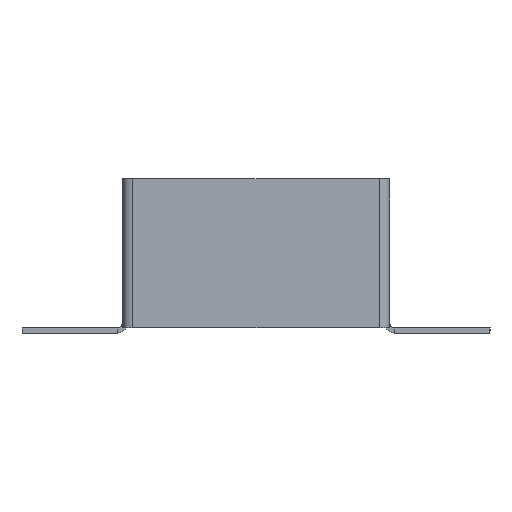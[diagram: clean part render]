
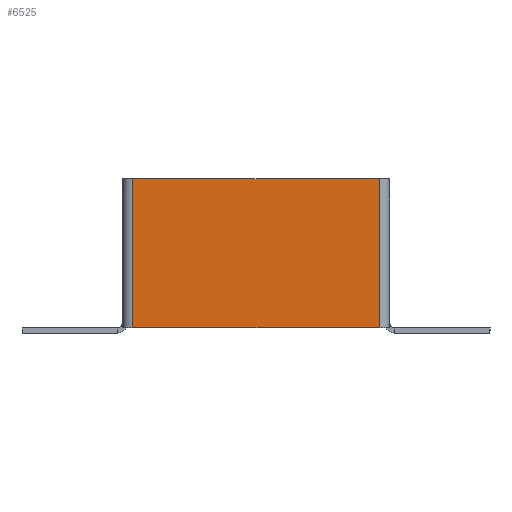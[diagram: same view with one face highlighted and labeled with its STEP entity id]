
A CAD part, front view. The second image highlights one B-rep face of the part: STEP entity #6525.
In plain terms, the highlighted planar face has unit normal (0, -1, 0).
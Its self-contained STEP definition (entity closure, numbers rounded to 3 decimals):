
#49 = CARTESIAN_POINT ( 'NONE',  ( -50., -2., 0. ) ) ;
#439 = CARTESIAN_POINT ( 'NONE',  ( 48., -2., -58. ) ) ;
#782 = EDGE_CURVE ( 'NONE', #5308, #4845, #5976, .T. ) ;
#1187 = DIRECTION ( 'NONE',  ( 0., 1., 0. ) ) ;
#1202 = EDGE_CURVE ( 'NONE', #5308, #1970, #5719, .T. ) ;
#1685 = DIRECTION ( 'NONE',  ( 0., 0., -1. ) ) ;
#1970 = VERTEX_POINT ( 'NONE', #7170 ) ;
#2417 = DIRECTION ( 'NONE',  ( 1., 0., 0. ) ) ;
#2468 = EDGE_LOOP ( 'NONE', ( #7684, #8819, #10192, #2958 ) ) ;
#2634 = AXIS2_PLACEMENT_3D ( 'NONE', #6640, #1187, #5184 ) ;
#2700 = DIRECTION ( 'NONE',  ( -1., 0., 0. ) ) ;
#2884 = LINE ( 'NONE', #7531, #4374 ) ;
#2910 = FACE_OUTER_BOUND ( 'NONE', #2468, .T. ) ;
#2958 = ORIENTED_EDGE ( 'NONE', *, *, #1202, .F. ) ;
#3900 = DIRECTION ( 'NONE',  ( 0., 0., 1. ) ) ;
#4132 = CARTESIAN_POINT ( 'NONE',  ( -48., -2., 0. ) ) ;
#4298 = EDGE_CURVE ( 'NONE', #9612, #4845, #2884, .T. ) ;
#4374 = VECTOR ( 'NONE', #2700, 1000. ) ;
#4845 = VERTEX_POINT ( 'NONE', #6813 ) ;
#5184 = DIRECTION ( 'NONE',  ( 0., 0., 1. ) ) ;
#5308 = VERTEX_POINT ( 'NONE', #4132 ) ;
#5719 = LINE ( 'NONE', #49, #7578 ) ;
#5976 = LINE ( 'NONE', #8188, #6965 ) ;
#6525 = ADVANCED_FACE ( 'NONE', ( #2910 ), #9989, .F. ) ;
#6640 = CARTESIAN_POINT ( 'NONE',  ( 0., -2., 0. ) ) ;
#6646 = VECTOR ( 'NONE', #3900, 1000. ) ;
#6813 = CARTESIAN_POINT ( 'NONE',  ( -48., -2., -58. ) ) ;
#6965 = VECTOR ( 'NONE', #1685, 1000. ) ;
#7170 = CARTESIAN_POINT ( 'NONE',  ( 48., -2., 0. ) ) ;
#7216 = EDGE_CURVE ( 'NONE', #9612, #1970, #9664, .T. ) ;
#7531 = CARTESIAN_POINT ( 'NONE',  ( -50., -2., -58. ) ) ;
#7578 = VECTOR ( 'NONE', #2417, 1000. ) ;
#7684 = ORIENTED_EDGE ( 'NONE', *, *, #782, .T. ) ;
#8188 = CARTESIAN_POINT ( 'NONE',  ( -48., -2., 0. ) ) ;
#8819 = ORIENTED_EDGE ( 'NONE', *, *, #4298, .F. ) ;
#9532 = CARTESIAN_POINT ( 'NONE',  ( 48., -2., -58. ) ) ;
#9612 = VERTEX_POINT ( 'NONE', #439 ) ;
#9664 = LINE ( 'NONE', #9532, #6646 ) ;
#9989 = PLANE ( 'NONE',  #2634 ) ;
#10192 = ORIENTED_EDGE ( 'NONE', *, *, #7216, .T. ) ;
